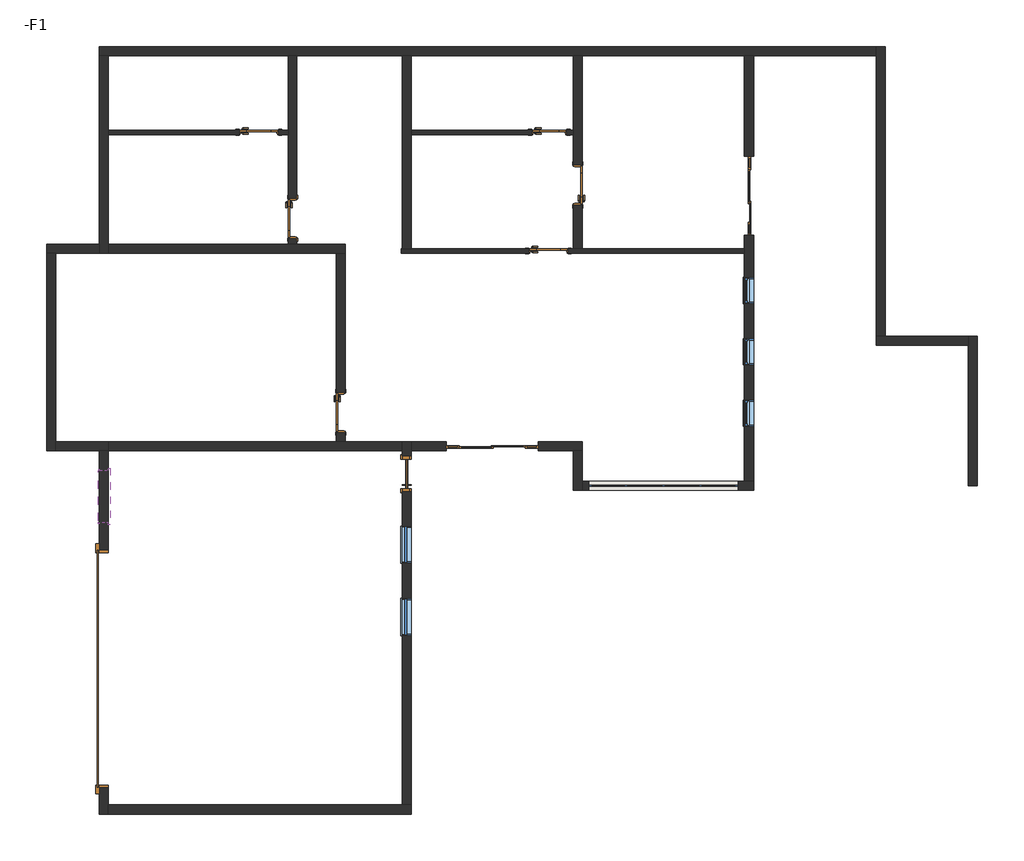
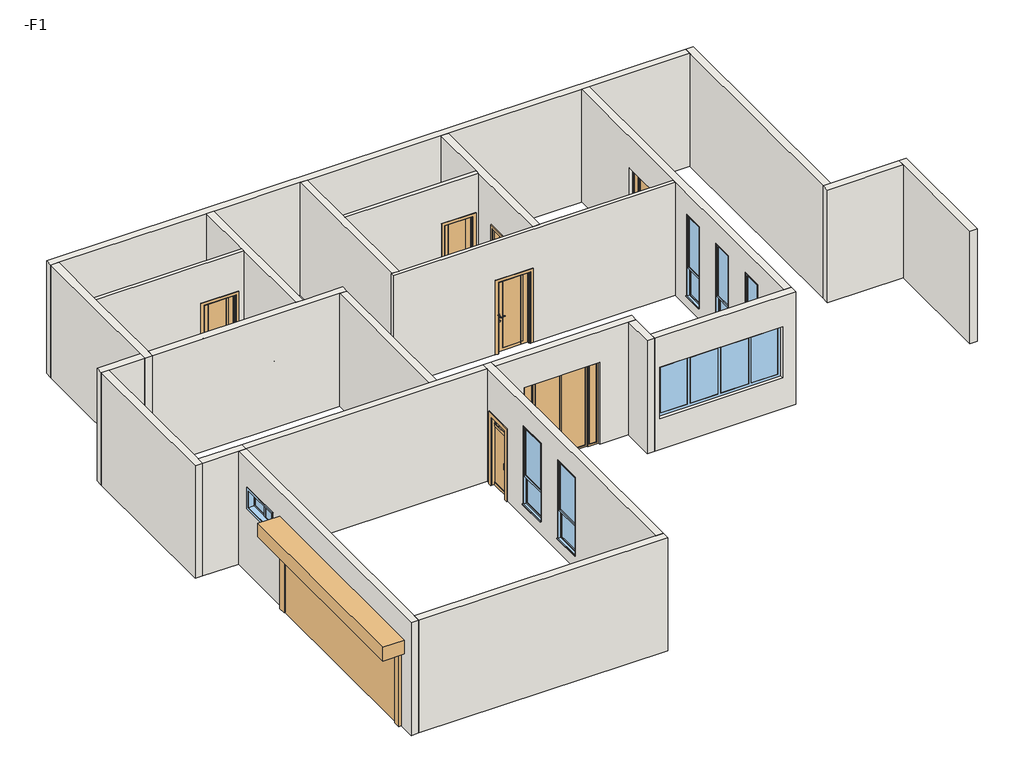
# One storey: 24 walls, 10 doors, 7 windows.
"""IFC4 building model written with IfcOpenShell, lengths in millimetres."""

from ifc_helpers import new_model, si_unit, frame, origin, place, context, project, spatial, polyline, outline, extrude, faceted_brep, transform, mapped, element, save
from components import door_800_x_2100_mm_cdd5fc6d, door_900_x_2100_mm_c85060e9, door_900_x_2100_mm_efe0f083, jlm5422_f6e8e53c, m0821_c18f4d9a, ym2124_6b214408, ym3267_00a1a1f0, c0624_d918e3f5, c0823_e49a13fc, c1206_2babd59b, c3415_a57d7b54

model = new_model("IFC4")

# Units and contexts
model_context = context("Model", 3, world=origin())
ifc_project = project(units=[si_unit("LENGTHUNIT", "METRE", prefix="MILLI")], contexts=[model_context])

# Site, building, storey
site = spatial("IfcSite", under=ifc_project)
building = spatial("IfcBuilding", under=site)
storey = spatial("IfcBuildingStorey", under=building, Name="-F1", Elevation=-3300.0)

# Doors
placement = place(None, origin())
door_800_x_2100_mm_shape = door_800_x_2100_mm_cdd5fc6d(model_context)
element("IfcDoor", 1, ObjectType="单扇平开门-木门 : 800 x 2100 mm", at=placement, inside=storey, context=model_context, shape_type="MappedRepresentation", body=[
    mapped(door_800_x_2100_mm_shape, transform((-6705.9782681, -1381.0286905, -3300.0), x_axis=(1.0, 0.0, 0.0), y_axis=(0.0, 1.0, 0.0), z_axis=(0.0, 0.0, 1.0))),
])
door_900_x_2100_mm_shape = door_900_x_2100_mm_c85060e9(model_context)
element("IfcDoor", 2, ObjectType="单扇平开门-木门 : 900 x 2100 mm", at=placement, inside=storey, context=model_context, shape_type="MappedRepresentation", body=[
    mapped(door_900_x_2100_mm_shape, transform((-6055.9782681, -2581.0286905, -3300.0), x_axis=(0.0, 1.0, 0.0), y_axis=(-1.0, 0.0, 0.0), z_axis=(0.0, 0.0, 1.0))),
])
element("IfcDoor", 3, ObjectType="单扇平开门-木门 : 900 x 2100 mm", at=placement, inside=storey, context=model_context, shape_type="MappedRepresentation", body=[
    mapped(door_900_x_2100_mm_shape, transform((-12555.9782681, -3341.0286905, -3300.0), x_axis=(0.0, -1.0, 0.0), y_axis=(1.0, 0.0, 0.0), z_axis=(0.0, 0.0, 1.0))),
])
element("IfcDoor", 4, ObjectType="单扇平开门-木门 : 900 x 2100 mm", at=placement, inside=storey, context=model_context, shape_type="MappedRepresentation", body=[
    mapped(door_900_x_2100_mm_shape, transform((-11455.9782681, -7761.0286905, -3300.0), x_axis=(0.0, -1.0, 0.0), y_axis=(1.0, 0.0, 0.0), z_axis=(0.0, 0.0, 1.0))),
])
door_900_x_2100_mm_2_shape = door_900_x_2100_mm_efe0f083(model_context)
element("IfcDoor", 5, ObjectType="单扇平开门-木门 : 900 x 2100 mm", at=placement, inside=storey, context=model_context, shape_type="MappedRepresentation", body=[
    mapped(door_900_x_2100_mm_2_shape, transform((-6725.9782681, -4081.0286905, -3300.0), x_axis=(1.0, 0.0, 0.0), y_axis=(0.0, 1.0, 0.0), z_axis=(0.0, 0.0, 1.0))),
])
element("IfcDoor", 6, ObjectType="单扇平开门-木门 : 900 x 2100 mm", at=placement, inside=storey, context=model_context, shape_type="MappedRepresentation", body=[
    mapped(door_900_x_2100_mm_2_shape, transform((-13325.9782681, -1381.0286905, -3300.0), x_axis=(1.0, 0.0, 0.0), y_axis=(0.0, 1.0, 0.0), z_axis=(0.0, 0.0, 1.0))),
])
jlm5422_shape = jlm5422_f6e8e53c(model_context)
element("IfcDoor", 7, ObjectType="卷帘门 : JLM5422", at=placement, inside=storey, context=model_context, shape_type="MappedRepresentation", body=[
    mapped(jlm5422_shape, transform((-16855.9782681, -13606.0286905, -3300.0), x_axis=(0.0, 1.0, 0.0), y_axis=(-1.0, 0.0, 0.0), z_axis=(0.0, 0.0, 1.0))),
])
m0821_shape = m0821_c18f4d9a(model_context)
element("IfcDoor", 8, ObjectType="平开玻璃门B-单扇2 : M0821", at=placement, inside=storey, context=model_context, shape_type="MappedRepresentation", body=[
    mapped(m0821_shape, transform((-9955.9782681, -8911.0286905, -3300.0), x_axis=(0.0, 1.0, 0.0), y_axis=(-1.0, 0.0, 0.0), z_axis=(0.0, 0.0, 1.0))),
])
ym2124_shape = ym2124_6b214408(model_context)
element("IfcDoor", 9, ObjectType="移门-推拉门 : YM2124", at=placement, inside=storey, context=model_context, shape_type="MappedRepresentation", body=[
    mapped(ym2124_shape, transform((-8005.9782681, -8531.0286905, -3300.0), x_axis=(-1.0, 0.0, 0.0), y_axis=(0.0, -1.0, 0.0), z_axis=(0.0, 0.0, 1.0))),
])
ym3267_shape = ym3267_00a1a1f0(model_context)
element("IfcDoor", 10, ObjectType="移门-推拉门 : YM3267", at=placement, inside=storey, context=model_context, shape_type="MappedRepresentation", body=[
    mapped(ym3267_shape, transform((-2155.9782681, -2831.0286905, -3300.0), x_axis=(0.0, -1.0, 0.0), y_axis=(1.0, 0.0, 0.0), z_axis=(0.0, 0.0, 1.0))),
])

# Walls
element("IfcWall", 11, ObjectType="外饰面 - 200mm", at=placement, inside=storey, context=model_context, shape_type="Brep", body=[
    faceted_brep([(3049.0217319, -9431.0286905, -3300.0), (3049.0217319, -6026.0286905, -3300.0), (3049.0217319, -6026.0286905, 0.0), (3049.0217319, -9431.0286905, 0.0), (2839.0217319, -9431.0286905, -3300.0), (2839.0217319, -9431.0286905, 0.0), (2839.0217319, -6236.0286905, 0.0), (2839.0217319, -6026.0286905, 0.0), (2839.0217319, -6026.0286905, -3300.0), (2839.0217319, -6236.0286905, -3300.0)], [[[0, 1, 2, 3]], [[4, 5, 6, 7, 8, 9]], [[1, 0, 4, 9, 8]], [[3, 2, 7, 6, 5]], [[0, 3, 5, 4]], [[2, 1, 8, 7]]]),
])
element("IfcWall", 12, ObjectType="外饰面 - 200mm", at=placement, inside=storey, context=model_context, shape_type="Brep", body=[
    faceted_brep([(2839.0217319, -6026.0286905, -3300.0), (949.0217319, -6026.0286905, -3300.0), (739.0217319, -6026.0286905, -3300.0), (739.0217319, -6026.0286905, 0.0), (949.0217319, -6026.0286905, 0.0), (2839.0217319, -6026.0286905, 0.0), (2839.0217319, -6236.0286905, -3300.0), (2839.0217319, -6236.0286905, 0.0), (739.0217319, -6236.0286905, 0.0), (739.0217319, -6236.0286905, -3300.0)], [[[0, 1, 2, 3, 4, 5]], [[6, 7, 8, 9]], [[2, 1, 0, 6, 9]], [[5, 4, 3, 8, 7]], [[0, 5, 7, 6]], [[3, 2, 9, 8]]]),
])
element("IfcWall", 13, ObjectType="外饰面 - 200mm", at=placement, inside=storey, context=model_context, shape_type="Brep", body=[
    faceted_brep([(949.0217319, -6026.0286905, -3300.0), (949.0217319, 573.9713095, -3300.0), (949.0217319, 573.9713095, 0.0), (949.0217319, -6026.0286905, 0.0), (739.0217319, -6026.0286905, -3300.0), (739.0217319, -6026.0286905, 0.0), (739.0217319, 363.9713095, 0.0), (739.0217319, 573.9713095, 0.0), (739.0217319, 573.9713095, -3300.0), (739.0217319, 363.9713095, -3300.0)], [[[0, 1, 2, 3]], [[4, 5, 6, 7, 8, 9]], [[0, 3, 5, 4]], [[2, 1, 8, 7]], [[1, 0, 4, 9, 8]], [[3, 2, 7, 6, 5]]]),
])
element("IfcWall", 14, ObjectType="外饰面 - 200mm", at=placement, inside=storey, context=model_context, shape_type="Brep", body=[
    faceted_brep([(739.0217319, 573.9713095, -3300.0), (-16960.9782681, 573.9713095, -3300.0), (-16960.9782681, 573.9713095, 0.0), (739.0217319, 573.9713095, 0.0), (739.0217319, 363.9713095, -3300.0), (739.0217319, 363.9713095, 0.0), (-2050.9782681, 363.9713095, 0.0), (-2260.9782681, 363.9713095, 0.0), (-5955.9782681, 363.9713095, 0.0), (-6155.9782681, 363.9713095, 0.0), (-9855.9782681, 363.9713095, 0.0), (-10055.9782681, 363.9713095, 0.0), (-12455.9782681, 363.9713095, 0.0), (-12655.9782681, 363.9713095, 0.0), (-16750.9782681, 363.9713095, 0.0), (-16960.9782681, 363.9713095, 0.0), (-16960.9782681, 363.9713095, -3300.0), (-16750.9782681, 363.9713095, -3300.0), (-12655.9782681, 363.9713095, -3300.0), (-12455.9782681, 363.9713095, -3300.0), (-10055.9782681, 363.9713095, -3300.0), (-9855.9782681, 363.9713095, -3300.0), (-6155.9782681, 363.9713095, -3300.0), (-5955.9782681, 363.9713095, -3300.0)], [[[0, 1, 2, 3]], [[4, 5, 6, 7, 8, 9, 10, 11, 12, 13, 14, 15, 16, 17, 18, 19, 20, 21, 22, 23]], [[1, 0, 4, 23, 22, 21, 20, 19, 18, 17, 16]], [[3, 2, 15, 14, 13, 12, 11, 10, 9, 8, 7, 6, 5]], [[0, 3, 5, 4]], [[2, 1, 16, 15]]]),
])
element("IfcWall", 15, ObjectType="外饰面 - 200mm", at=placement, inside=storey, context=model_context, shape_type="Brep", body=[
    faceted_brep([(-16960.9782681, 363.9713095, -3300.0), (-16960.9782681, -3926.0286905, -3300.0), (-16960.9782681, -4136.0286905, -3300.0), (-16960.9782681, -4136.0286905, 0.0), (-16960.9782681, -3926.0286905, 0.0), (-16960.9782681, 363.9713095, 0.0), (-16750.9782681, 363.9713095, -3300.0), (-16750.9782681, 363.9713095, 0.0), (-16750.9782681, -1331.0286905, 0.0), (-16750.9782681, -1431.0286905, 0.0), (-16750.9782681, -3931.0286905, 0.0), (-16750.9782681, -4131.0286905, 0.0), (-16750.9782681, -4136.0286905, 0.0), (-16750.9782681, -4136.0286905, -3300.0), (-16750.9782681, -4131.0286905, -3300.0), (-16750.9782681, -3931.0286905, -3300.0), (-16750.9782681, -1431.0286905, -3300.0), (-16750.9782681, -1331.0286905, -3300.0)], [[[0, 1, 2, 3, 4, 5]], [[6, 7, 8, 9, 10, 11, 12, 13, 14, 15, 16, 17]], [[2, 1, 0, 6, 17, 16, 15, 14, 13]], [[5, 4, 3, 12, 11, 10, 9, 8, 7]], [[0, 5, 7, 6]], [[3, 2, 13, 12]]]),
])
element("IfcWall", 16, ObjectType="外饰面 - 200mm", at=placement, inside=storey, context=model_context, shape_type="Brep", body=[
    faceted_brep([(-16960.9782681, -3926.0286905, -3300.0), (-18160.9782681, -3926.0286905, -3300.0), (-18160.9782681, -3926.0286905, 0.0), (-16960.9782681, -3926.0286905, 0.0), (-16960.9782681, -4136.0286905, -3300.0), (-16960.9782681, -4136.0286905, 0.0), (-17950.9782681, -4136.0286905, 0.0), (-18160.9782681, -4136.0286905, 0.0), (-18160.9782681, -4136.0286905, -3300.0), (-17950.9782681, -4136.0286905, -3300.0)], [[[0, 1, 2, 3]], [[4, 5, 6, 7, 8, 9]], [[1, 0, 4, 9, 8]], [[3, 2, 7, 6, 5]], [[0, 3, 5, 4]], [[2, 1, 8, 7]]]),
])
element("IfcWall", 17, ObjectType="外饰面 - 200mm", at=placement, inside=storey, context=model_context, shape_type="Brep", body=[
    faceted_brep([(-18160.9782681, -4136.0286905, -3300.0), (-18160.9782681, -8636.0286905, -3300.0), (-18160.9782681, -8636.0286905, 0.0), (-18160.9782681, -4136.0286905, 0.0), (-17950.9782681, -4136.0286905, -3300.0), (-17950.9782681, -4136.0286905, 0.0), (-17950.9782681, -8426.0286905, 0.0), (-17950.9782681, -8636.0286905, 0.0), (-17950.9782681, -8636.0286905, -3300.0), (-17950.9782681, -8426.0286905, -3300.0)], [[[0, 1, 2, 3]], [[4, 5, 6, 7, 8, 9]], [[1, 0, 4, 9, 8]], [[3, 2, 7, 6, 5]], [[0, 3, 5, 4]], [[2, 1, 8, 7]]]),
])
element("IfcWall", 18, ObjectType="外饰面 - 200mm", at=placement, inside=storey, context=model_context, shape_type="Brep", body=[
    faceted_brep([(-17950.9782681, -8636.0286905, -3300.0), (-16960.9782681, -8636.0286905, -3300.0), (-16750.9782681, -8636.0286905, -3300.0), (-16750.9782681, -8636.0286905, 0.0), (-16960.9782681, -8636.0286905, 0.0), (-17950.9782681, -8636.0286905, 0.0), (-17950.9782681, -8426.0286905, -3300.0), (-17950.9782681, -8426.0286905, 0.0), (-16750.9782681, -8426.0286905, 0.0), (-16750.9782681, -8426.0286905, -3300.0), (-16750.9782681, -8431.0286905, -3300.0), (-16750.9782681, -8631.0286905, -3300.0), (-16750.9782681, -8631.0286905, 0.0), (-16750.9782681, -8431.0286905, 0.0)], [[[0, 1, 2, 3, 4, 5]], [[6, 7, 8, 9]], [[2, 1, 0, 6, 9, 10, 11]], [[5, 4, 3, 12, 13, 8, 7]], [[0, 5, 7, 6]], [[3, 2, 11, 10, 9, 8, 13, 12]]]),
])
element("IfcWall", 19, ObjectType="外饰面 - 200mm", at=placement, inside=storey, context=model_context, shape_type="Brep", body=[
    faceted_brep([(-16960.9782681, -16916.0286905, 0.0), (-16960.9782681, -8636.0286905, 0.0), (-16960.9782681, -8636.0286905, -3300.0), (-16960.9782681, -10906.0286905, -3300.0), (-16960.9782681, -10906.0286905, -1100.0), (-16960.9782681, -16306.0286905, -1100.0), (-16960.9782681, -16306.0286905, -3300.0), (-16960.9782681, -16916.0286905, -3300.0), (-16960.9782681, -10281.0286905, -800.0), (-16960.9782681, -10281.0286905, -1400.0), (-16960.9782681, -9081.0286905, -1400.0), (-16960.9782681, -9081.0286905, -800.0), (-16750.9782681, -8636.0286905, 0.0), (-16750.9782681, -16706.0286905, 0.0), (-16750.9782681, -16916.0286905, 0.0), (-16750.9782681, -16916.0286905, -3300.0), (-16750.9782681, -16706.0286905, -3300.0), (-16750.9782681, -16306.0286905, -3300.0), (-16750.9782681, -16306.0286905, -1100.0), (-16750.9782681, -10906.0286905, -1100.0), (-16750.9782681, -10906.0286905, -3300.0), (-16750.9782681, -8636.0286905, -3300.0), (-16750.9782681, -10281.0286905, -800.0), (-16750.9782681, -9081.0286905, -800.0), (-16750.9782681, -9081.0286905, -1400.0), (-16750.9782681, -10281.0286905, -1400.0)], [[[0, 1, 2, 3, 4, 5, 6, 7], [8, 9, 10, 11]], [[12, 13, 14, 15, 16, 17, 18, 19, 20, 21], [22, 23, 24, 25]], [[2, 21, 20, 3]], [[15, 7, 6, 17, 16]], [[1, 0, 14, 13, 12]], [[2, 1, 12, 21]], [[0, 7, 15, 14]], [[9, 8, 22, 25]], [[10, 9, 25, 24]], [[11, 10, 24, 23]], [[8, 11, 23, 22]], [[19, 4, 3, 20]], [[4, 19, 18, 5]], [[5, 18, 17, 6]]]),
])
element("IfcWall", 20, ObjectType="外饰面 - 200mm", at=placement, inside=storey, context=model_context, shape_type="Brep", body=[
    faceted_brep([(-16750.9782681, -16916.0286905, -3300.0), (-9850.9782681, -16916.0286905, -3300.0), (-9850.9782681, -16916.0286905, 0.0), (-16750.9782681, -16916.0286905, 0.0), (-16750.9782681, -16706.0286905, -3300.0), (-16750.9782681, -16706.0286905, 0.0), (-10060.9782681, -16706.0286905, 0.0), (-9850.9782681, -16706.0286905, 0.0), (-9850.9782681, -16706.0286905, -3300.0), (-10060.9782681, -16706.0286905, -3300.0)], [[[0, 1, 2, 3]], [[4, 5, 6, 7, 8, 9]], [[1, 0, 4, 9, 8]], [[3, 2, 7, 6, 5]], [[0, 3, 5, 4]], [[2, 1, 8, 7]]]),
])
element("IfcWall", 21, ObjectType="外饰面 - 200mm", at=placement, inside=storey, context=model_context, shape_type="Brep", body=[
    faceted_brep([(-9850.9782681, -8751.0286905, -1200.0), (-9850.9782681, -8751.0286905, -3300.0), (-9850.9782681, -8636.0286905, -3300.0), (-9850.9782681, -8426.0286905, -3300.0), (-9850.9782681, -8426.0286905, 0.0), (-9850.9782681, -8636.0286905, 0.0), (-9850.9782681, -16706.0286905, 0.0), (-9850.9782681, -16706.0286905, -3300.0), (-9850.9782681, -9571.0286905, -3300.0), (-9850.9782681, -9571.0286905, -1200.0), (-9850.9782681, -12001.0286905, -625.0), (-9850.9782681, -12001.0286905, -2925.0), (-9850.9782681, -12851.0286905, -2925.0), (-9850.9782681, -12851.0286905, -625.0), (-9850.9782681, -10351.0286905, -625.0), (-9850.9782681, -10351.0286905, -2925.0), (-9850.9782681, -11201.0286905, -2925.0), (-9850.9782681, -11201.0286905, -625.0), (-10060.9782681, -8426.0286905, -3300.0), (-10060.9782681, -8431.0286905, -3300.0), (-10060.9782681, -8631.0286905, -3300.0), (-10060.9782681, -8751.0286905, -3300.0), (-10060.9782681, -8751.0286905, -1200.0), (-10060.9782681, -9571.0286905, -1200.0), (-10060.9782681, -9571.0286905, -3300.0), (-10060.9782681, -16706.0286905, -3300.0), (-10060.9782681, -16706.0286905, 0.0), (-10060.9782681, -8631.0286905, 0.0), (-10060.9782681, -8431.0286905, 0.0), (-10060.9782681, -8426.0286905, 0.0), (-10060.9782681, -12001.0286905, -625.0), (-10060.9782681, -12851.0286905, -625.0), (-10060.9782681, -12851.0286905, -2925.0), (-10060.9782681, -12001.0286905, -2925.0), (-10060.9782681, -10351.0286905, -625.0), (-10060.9782681, -11201.0286905, -625.0), (-10060.9782681, -11201.0286905, -2925.0), (-10060.9782681, -10351.0286905, -2925.0)], [[[0, 1, 2, 3, 4, 5, 6, 7, 8, 9], [10, 11, 12, 13], [14, 15, 16, 17]], [[18, 19, 20, 21, 22, 23, 24, 25, 26, 27, 28, 29], [30, 31, 32, 33], [34, 35, 36, 37]], [[8, 7, 25, 24]], [[3, 2, 1, 21, 20, 19, 18]], [[6, 5, 4, 29, 28, 27, 26]], [[7, 6, 26, 25]], [[4, 3, 18, 29]], [[11, 10, 30, 33]], [[12, 11, 33, 32]], [[13, 12, 32, 31]], [[10, 13, 31, 30]], [[15, 14, 34, 37]], [[16, 15, 37, 36]], [[17, 16, 36, 35]], [[14, 17, 35, 34]], [[24, 23, 9, 8]], [[22, 21, 1, 0]], [[23, 22, 0, 9]]]),
])
element("IfcWall", 22, ObjectType="外饰面 - 200mm", at=placement, inside=storey, context=model_context, shape_type="Brep", body=[
    faceted_brep([(-5950.9782681, -8636.0286905, 0.0), (-6160.9782681, -8636.0286905, 0.0), (-9850.9782681, -8636.0286905, 0.0), (-9850.9782681, -8636.0286905, -3300.0), (-9055.9782681, -8636.0286905, -3300.0), (-9055.9782681, -8636.0286905, -900.0), (-6955.9782681, -8636.0286905, -900.0), (-6955.9782681, -8636.0286905, -3300.0), (-6160.9782681, -8636.0286905, -3300.0), (-5950.9782681, -8636.0286905, -3300.0), (-9850.9782681, -8426.0286905, 0.0), (-5950.9782681, -8426.0286905, 0.0), (-5950.9782681, -8426.0286905, -3300.0), (-6955.9782681, -8426.0286905, -3300.0), (-6955.9782681, -8426.0286905, -900.0), (-9055.9782681, -8426.0286905, -900.0), (-9055.9782681, -8426.0286905, -3300.0), (-9850.9782681, -8426.0286905, -3300.0)], [[[0, 1, 2, 3, 4, 5, 6, 7, 8, 9]], [[10, 11, 12, 13, 14, 15, 16, 17]], [[3, 17, 16, 4]], [[12, 9, 8, 7, 13]], [[2, 1, 0, 11, 10]], [[3, 2, 10, 17]], [[0, 9, 12, 11]], [[15, 5, 4, 16]], [[5, 15, 14, 6]], [[6, 14, 13, 7]]]),
])
element("IfcWall", 23, ObjectType="外饰面 - 200mm", at=placement, inside=storey, context=model_context, shape_type="Brep", body=[
    faceted_brep([(-6160.9782681, -8636.0286905, -3300.0), (-6160.9782681, -9536.0286905, -3300.0), (-6160.9782681, -9536.0286905, 0.0), (-6160.9782681, -8636.0286905, 0.0), (-5950.9782681, -8636.0286905, -3300.0), (-5950.9782681, -8636.0286905, 0.0), (-5950.9782681, -9326.0286905, 0.0), (-5950.9782681, -9536.0286905, 0.0), (-5950.9782681, -9536.0286905, -3300.0), (-5950.9782681, -9326.0286905, -3300.0)], [[[0, 1, 2, 3]], [[4, 5, 6, 7, 8, 9]], [[1, 0, 4, 9, 8]], [[3, 2, 7, 6, 5]], [[0, 3, 5, 4]], [[2, 1, 8, 7]]]),
])
element("IfcWall", 24, ObjectType="外饰面 - 200mm", at=placement, inside=storey, context=model_context, shape_type="Brep", body=[
    faceted_brep([(-5950.9782681, -9536.0286905, -3300.0), (-2050.9782681, -9536.0286905, -3300.0), (-2050.9782681, -9536.0286905, 0.0), (-5950.9782681, -9536.0286905, 0.0), (-5805.9782681, -9536.0286905, -2400.0), (-5805.9782681, -9536.0286905, -900.0), (-2405.9782681, -9536.0286905, -900.0), (-2405.9782681, -9536.0286905, -2400.0), (-5950.9782681, -9326.0286905, -3300.0), (-5950.9782681, -9326.0286905, 0.0), (-2260.9782681, -9326.0286905, 0.0), (-2050.9782681, -9326.0286905, 0.0), (-2050.9782681, -9326.0286905, -3300.0), (-2260.9782681, -9326.0286905, -3300.0), (-5805.9782681, -9326.0286905, -2400.0), (-2405.9782681, -9326.0286905, -2400.0), (-2405.9782681, -9326.0286905, -900.0), (-5805.9782681, -9326.0286905, -900.0)], [[[0, 1, 2, 3], [4, 5, 6, 7]], [[8, 9, 10, 11, 12, 13], [14, 15, 16, 17]], [[1, 0, 8, 13, 12]], [[3, 2, 11, 10, 9]], [[0, 3, 9, 8]], [[2, 1, 12, 11]], [[5, 4, 14, 17]], [[6, 5, 17, 16]], [[7, 6, 16, 15]], [[4, 7, 15, 14]]]),
])
element("IfcWall", 25, ObjectType="外饰面 - 200mm", at=placement, inside=storey, context=model_context, shape_type="Brep", body=[
    faceted_brep([(-2050.9782681, 363.9713095, 0.0), (-2050.9782681, -9326.0286905, 0.0), (-2050.9782681, -9326.0286905, -3300.0), (-2050.9782681, -3731.0286905, -3300.0), (-2050.9782681, -3731.0286905, -900.0), (-2050.9782681, -1931.0286905, -900.0), (-2050.9782681, -1931.0286905, -3300.0), (-2050.9782681, 363.9713095, -3300.0), (-2050.9782681, -4681.0286905, -600.0), (-2050.9782681, -4681.0286905, -3000.0), (-2050.9782681, -5281.0286905, -3000.0), (-2050.9782681, -5281.0286905, -600.0), (-2050.9782681, -6081.0286905, -600.0), (-2050.9782681, -6081.0286905, -3000.0), (-2050.9782681, -6681.0286905, -3000.0), (-2050.9782681, -6681.0286905, -600.0), (-2050.9782681, -7481.0286905, -600.0), (-2050.9782681, -7481.0286905, -3000.0), (-2050.9782681, -8081.0286905, -3000.0), (-2050.9782681, -8081.0286905, -600.0), (-2260.9782681, -9326.0286905, 0.0), (-2260.9782681, -4131.0286905, 0.0), (-2260.9782681, -4031.0286905, 0.0), (-2260.9782681, 363.9713095, 0.0), (-2260.9782681, 363.9713095, -3300.0), (-2260.9782681, -1931.0286905, -3300.0), (-2260.9782681, -1931.0286905, -900.0), (-2260.9782681, -3731.0286905, -900.0), (-2260.9782681, -3731.0286905, -3300.0), (-2260.9782681, -4031.0286905, -3300.0), (-2260.9782681, -4131.0286905, -3300.0), (-2260.9782681, -9326.0286905, -3300.0), (-2260.9782681, -4681.0286905, -3000.0), (-2260.9782681, -4681.0286905, -600.0), (-2260.9782681, -5281.0286905, -600.0), (-2260.9782681, -5281.0286905, -3000.0), (-2260.9782681, -6081.0286905, -3000.0), (-2260.9782681, -6081.0286905, -600.0), (-2260.9782681, -6681.0286905, -600.0), (-2260.9782681, -6681.0286905, -3000.0), (-2260.9782681, -7481.0286905, -3000.0), (-2260.9782681, -7481.0286905, -600.0), (-2260.9782681, -8081.0286905, -600.0), (-2260.9782681, -8081.0286905, -3000.0)], [[[0, 1, 2, 3, 4, 5, 6, 7], [8, 9, 10, 11], [12, 13, 14, 15], [16, 17, 18, 19]], [[20, 21, 22, 23, 24, 25, 26, 27, 28, 29, 30, 31], [32, 33, 34, 35], [36, 37, 38, 39], [40, 41, 42, 43]], [[2, 31, 30, 29, 28, 3]], [[24, 7, 6, 25]], [[1, 0, 23, 22, 21, 20]], [[2, 1, 20, 31]], [[0, 7, 24, 23]], [[9, 8, 33, 32]], [[10, 9, 32, 35]], [[11, 10, 35, 34]], [[8, 11, 34, 33]], [[13, 12, 37, 36]], [[14, 13, 36, 39]], [[15, 14, 39, 38]], [[12, 15, 38, 37]], [[17, 16, 41, 40]], [[18, 17, 40, 43]], [[19, 18, 43, 42]], [[16, 19, 42, 41]], [[27, 4, 3, 28]], [[4, 27, 26, 5]], [[5, 26, 25, 6]]]),
])
element("IfcWall", 26, ObjectType="常规 - 200mm - 实心", at=placement, inside=storey, context=model_context, shape_type="Brep", body=[
    faceted_brep([(-6155.9782681, -4031.0286905, 0.0), (-6155.9782681, -1431.0286905, 0.0), (-6155.9782681, -1331.0286905, 0.0), (-6155.9782681, 363.9713095, 0.0), (-6155.9782681, 363.9713095, -3300.0), (-6155.9782681, -1331.0286905, -3300.0), (-6155.9782681, -1431.0286905, -3300.0), (-6155.9782681, -2131.0286905, -3300.0), (-6155.9782681, -2131.0286905, -1200.0), (-6155.9782681, -3031.0286905, -1200.0), (-6155.9782681, -3031.0286905, -3300.0), (-6155.9782681, -4031.0286905, -3300.0), (-5955.9782681, 363.9713095, 0.0), (-5955.9782681, -4031.0286905, 0.0), (-5955.9782681, -4031.0286905, -3300.0), (-5955.9782681, -3031.0286905, -3300.0), (-5955.9782681, -3031.0286905, -1200.0), (-5955.9782681, -2131.0286905, -1200.0), (-5955.9782681, -2131.0286905, -3300.0), (-5955.9782681, 363.9713095, -3300.0)], [[[0, 1, 2, 3, 4, 5, 6, 7, 8, 9, 10, 11]], [[12, 13, 14, 15, 16, 17, 18, 19]], [[4, 19, 18, 7, 6, 5]], [[14, 11, 10, 15]], [[3, 2, 1, 0, 13, 12]], [[4, 3, 12, 19]], [[0, 11, 14, 13]], [[17, 8, 7, 18]], [[8, 17, 16, 9]], [[9, 16, 15, 10]]]),
])
element("IfcWall", 27, ObjectType="常规 - 200mm - 实心", at=placement, inside=storey, context=model_context, shape_type="Brep", body=[
    faceted_brep([(-10055.9782681, 363.9713095, -3300.0), (-10055.9782681, -4031.0286905, -3300.0), (-10055.9782681, -4031.0286905, 0.0), (-10055.9782681, 363.9713095, 0.0), (-9855.9782681, 363.9713095, -3300.0), (-9855.9782681, 363.9713095, 0.0), (-9855.9782681, -1331.0286905, 0.0), (-9855.9782681, -1431.0286905, 0.0), (-9855.9782681, -4031.0286905, 0.0), (-9855.9782681, -4031.0286905, -3300.0), (-9855.9782681, -1431.0286905, -3300.0), (-9855.9782681, -1331.0286905, -3300.0)], [[[0, 1, 2, 3]], [[4, 5, 6, 7, 8, 9, 10, 11]], [[1, 0, 4, 11, 10, 9]], [[2, 1, 9, 8]], [[3, 2, 8, 7, 6, 5]], [[0, 3, 5, 4]]]),
])
element("IfcWall", 28, ObjectType="常规 - 200mm - 实心", at=placement, inside=storey, context=model_context, shape_type="Brep", body=[
    faceted_brep([(-12655.9782681, -3931.0286905, 0.0), (-12655.9782681, -1431.0286905, 0.0), (-12655.9782681, -1331.0286905, 0.0), (-12655.9782681, 363.9713095, 0.0), (-12655.9782681, 363.9713095, -3300.0), (-12655.9782681, -1331.0286905, -3300.0), (-12655.9782681, -1431.0286905, -3300.0), (-12655.9782681, -2891.0286905, -3300.0), (-12655.9782681, -2891.0286905, -1200.0), (-12655.9782681, -3791.0286905, -1200.0), (-12655.9782681, -3791.0286905, -3300.0), (-12655.9782681, -3931.0286905, -3300.0), (-12455.9782681, 363.9713095, 0.0), (-12455.9782681, -3931.0286905, 0.0), (-12455.9782681, -3931.0286905, -3300.0), (-12455.9782681, -3791.0286905, -3300.0), (-12455.9782681, -3791.0286905, -1200.0), (-12455.9782681, -2891.0286905, -1200.0), (-12455.9782681, -2891.0286905, -3300.0), (-12455.9782681, 363.9713095, -3300.0)], [[[0, 1, 2, 3, 4, 5, 6, 7, 8, 9, 10, 11]], [[12, 13, 14, 15, 16, 17, 18, 19]], [[4, 19, 18, 7, 6, 5]], [[14, 11, 10, 15]], [[3, 2, 1, 0, 13, 12]], [[4, 3, 12, 19]], [[0, 11, 14, 13]], [[9, 16, 15, 10]], [[16, 9, 8, 17]], [[17, 8, 7, 18]]]),
])
element("IfcWall", 29, ObjectType="常规 - 200mm - 实心", at=placement, inside=storey, context=model_context, shape_type="Brep", body=[
    faceted_brep([(-16750.9782681, -4131.0286905, -3300.0), (-11555.9782681, -4131.0286905, -3300.0), (-11355.9782681, -4131.0286905, -3300.0), (-11355.9782681, -4131.0286905, 0.0), (-11555.9782681, -4131.0286905, 0.0), (-16750.9782681, -4131.0286905, 0.0), (-16750.9782681, -3931.0286905, -3300.0), (-16750.9782681, -3931.0286905, 0.0), (-12655.9782681, -3931.0286905, 0.0), (-12455.9782681, -3931.0286905, 0.0), (-11355.9782681, -3931.0286905, 0.0), (-11355.9782681, -3931.0286905, -3300.0), (-12455.9782681, -3931.0286905, -3300.0), (-12655.9782681, -3931.0286905, -3300.0)], [[[0, 1, 2, 3, 4, 5]], [[6, 7, 8, 9, 10, 11, 12, 13]], [[2, 1, 0, 6, 13, 12, 11]], [[5, 4, 3, 10, 9, 8, 7]], [[0, 5, 7, 6]], [[3, 2, 11, 10]]]),
])
element("IfcWall", 30, ObjectType="常规 - 200mm - 实心", at=placement, inside=storey, context=model_context, shape_type="SweptSolid", body=[
    extrude(outline(polyline([(-8431.0286905, 0.0), (-4131.0286905, 0.0), (-4131.0286905, -3300.0), (-7311.0286905, -3300.0), (-7311.0286905, -1200.0), (-8211.0286905, -1200.0), (-8211.0286905, -3300.0), (-8431.0286905, -3300.0), (-8431.0286905, 0.0)])), frame((-11555.9782681, 0.0, 0.0), z_axis=(1.0, 0.0, 0.0), x_axis=(0.0, 1.0, 0.0)), (0.0, 0.0, 1.0), 200.0),
])
element("IfcWall", 31, ObjectType="常规 - 200mm - 实心", at=placement, inside=storey, context=model_context, shape_type="Brep", body=[
    faceted_brep([(-16750.9782681, -8631.0286905, -3300.0), (-10060.9782681, -8631.0286905, -3300.0), (-10060.9782681, -8631.0286905, 0.0), (-16750.9782681, -8631.0286905, 0.0), (-16750.9782681, -8431.0286905, -3300.0), (-16750.9782681, -8431.0286905, 0.0), (-11555.9782681, -8431.0286905, 0.0), (-11355.9782681, -8431.0286905, 0.0), (-10060.9782681, -8431.0286905, 0.0), (-10060.9782681, -8431.0286905, -3300.0), (-11355.9782681, -8431.0286905, -3300.0), (-11555.9782681, -8431.0286905, -3300.0)], [[[0, 1, 2, 3]], [[4, 5, 6, 7, 8, 9, 10, 11]], [[1, 0, 4, 11, 10, 9]], [[3, 2, 8, 7, 6, 5]], [[0, 3, 5, 4]], [[2, 1, 9, 8]]]),
])
element("IfcWall", 32, ObjectType="常规 - 100mm 砌体", at=placement, inside=storey, context=model_context, shape_type="SweptSolid", body=[
    extrude(outline(polyline([(0.0, -12655.9782681), (0.0, -16750.9782681), (-3300.0, -16750.9782681), (-3300.0, -13775.9782681), (-1200.0, -13775.9782681), (-1200.0, -12875.9782681), (-3300.0, -12875.9782681), (-3300.0, -12655.9782681), (0.0, -12655.9782681)])), frame((0.0, -1431.0286905, 0.0), z_axis=(0.0, 1.0, 0.0), x_axis=(0.0, 0.0, 1.0)), (0.0, 0.0, 1.0), 100.0),
])
element("IfcWall", 33, ObjectType="常规 - 100mm 砌体", at=placement, inside=storey, context=model_context, shape_type="SweptSolid", body=[
    extrude(outline(polyline([(0.0, -6155.9782681), (0.0, -9855.9782681), (-3300.0, -9855.9782681), (-3300.0, -7105.9782681), (-1200.0, -7105.9782681), (-1200.0, -6305.9782681), (-3300.0, -6305.9782681), (-3300.0, -6155.9782681), (0.0, -6155.9782681)])), frame((0.0, -1431.0286905, 0.0), z_axis=(0.0, 1.0, 0.0), x_axis=(0.0, 0.0, 1.0)), (0.0, 0.0, 1.0), 100.0),
])
element("IfcWall", 34, ObjectType="常规 - 100mm 砌体", at=placement, inside=storey, context=model_context, shape_type="Brep", body=[
    faceted_brep([(-2260.9782681, -4131.0286905, 0.0), (-10075.9782681, -4131.0286905, 0.0), (-10075.9782681, -4131.0286905, -3300.0), (-7175.9782681, -4131.0286905, -3300.0), (-7175.9782681, -4131.0286905, -1200.0), (-6275.9782681, -4131.0286905, -1200.0), (-6275.9782681, -4131.0286905, -3300.0), (-2260.9782681, -4131.0286905, -3300.0), (-10075.9782681, -4031.0286905, 0.0), (-6155.9782681, -4031.0286905, 0.0), (-5955.9782681, -4031.0286905, 0.0), (-2260.9782681, -4031.0286905, 0.0), (-2260.9782681, -4031.0286905, -3300.0), (-5955.9782681, -4031.0286905, -3300.0), (-6155.9782681, -4031.0286905, -3300.0), (-6275.9782681, -4031.0286905, -3300.0), (-6275.9782681, -4031.0286905, -1200.0), (-7175.9782681, -4031.0286905, -1200.0), (-7175.9782681, -4031.0286905, -3300.0), (-10075.9782681, -4031.0286905, -3300.0)], [[[0, 1, 2, 3, 4, 5, 6, 7]], [[8, 9, 10, 11, 12, 13, 14, 15, 16, 17, 18, 19]], [[2, 19, 18, 3]], [[12, 7, 6, 15, 14, 13]], [[1, 0, 11, 10, 9, 8]], [[2, 1, 8, 19]], [[0, 7, 12, 11]], [[5, 16, 15, 6]], [[16, 5, 4, 17]], [[17, 4, 3, 18]]]),
])

# Windows
c0624_shape = c0624_d918e3f5(model_context)
element("IfcWindow", 35, ObjectType="上下拉窗1 : C0624", at=placement, inside=storey, context=model_context, shape_type="MappedRepresentation", body=[
    mapped(c0624_shape, transform((-2156.2167284, -4981.0286905, -3300.0), x_axis=(0.0, 1.0, 0.0), y_axis=(-1.0, 0.0, 0.0), z_axis=(0.0, 0.0, 1.0))),
])
element("IfcWindow", 36, ObjectType="上下拉窗1 : C0624", at=placement, inside=storey, context=model_context, shape_type="MappedRepresentation", body=[
    mapped(c0624_shape, transform((-2156.2167284, -6381.0286905, -3300.0), x_axis=(0.0, 1.0, 0.0), y_axis=(-1.0, 0.0, 0.0), z_axis=(0.0, 0.0, 1.0))),
])
element("IfcWindow", 37, ObjectType="上下拉窗1 : C0624", at=placement, inside=storey, context=model_context, shape_type="MappedRepresentation", body=[
    mapped(c0624_shape, transform((-2156.2167284, -7781.0286905, -3300.0), x_axis=(0.0, 1.0, 0.0), y_axis=(-1.0, 0.0, 0.0), z_axis=(0.0, 0.0, 1.0))),
])
c0823_shape = c0823_e49a13fc(model_context)
element("IfcWindow", 38, ObjectType="上下拉窗1 : C0823", at=placement, inside=storey, context=model_context, shape_type="MappedRepresentation", body=[
    mapped(c0823_shape, transform((-9956.2167284, -12426.0286905, -3225.0), x_axis=(0.0, 1.0, 0.0), y_axis=(-1.0, 0.0, 0.0), z_axis=(0.0, 0.0, 1.0))),
])
element("IfcWindow", 39, ObjectType="上下拉窗1 : C0823", at=placement, inside=storey, context=model_context, shape_type="MappedRepresentation", body=[
    mapped(c0823_shape, transform((-9956.2167284, -10776.0286905, -3225.0), x_axis=(0.0, 1.0, 0.0), y_axis=(-1.0, 0.0, 0.0), z_axis=(0.0, 0.0, 1.0))),
])
c1206_shape = c1206_2babd59b(model_context)
element("IfcWindow", 40, ObjectType="推拉窗5 - 带贴面 : C1206", at=placement, inside=storey, context=model_context, shape_type="MappedRepresentation", body=[
    mapped(c1206_shape, transform((-16789.1048306, -9671.5036905, -2305.0), x_axis=(0.0, -1.0, 0.0), y_axis=(1.0, 0.0, 0.0), z_axis=(0.0, 0.0, 1.0))),
])
c3415_shape = c3415_a57d7b54(model_context)
element("IfcWindow", 41, ObjectType="窗户 : C3415", at=placement, inside=storey, context=model_context, shape_type="MappedRepresentation", body=[
    mapped(c3415_shape, transform((-4105.9782681, -9431.0286905, -3200.0), x_axis=(1.0, 0.0, 0.0), y_axis=(0.0, 1.0, 0.0), z_axis=(0.0, 0.0, 1.0))),
])

save(model, "model.ifc")
